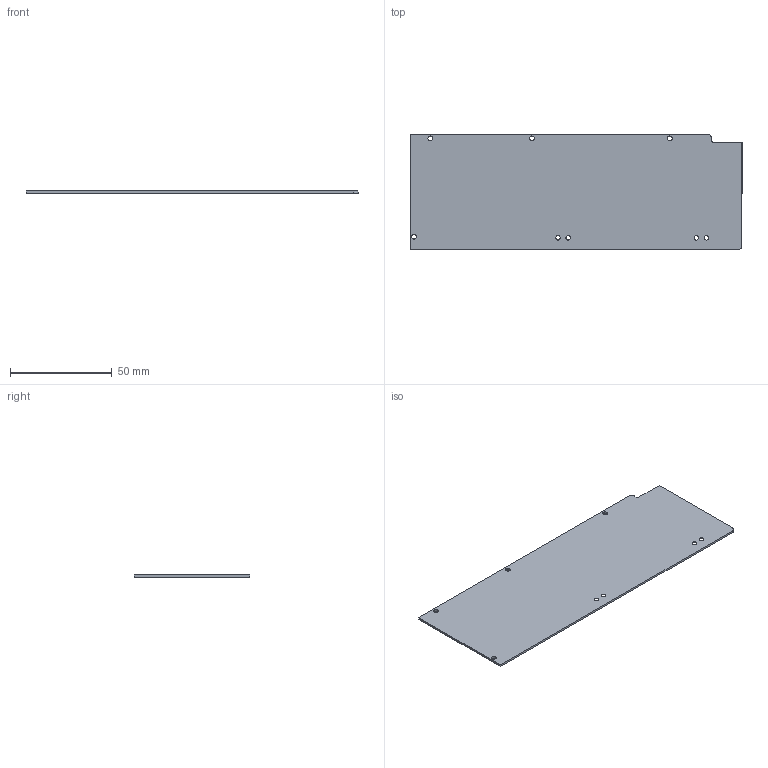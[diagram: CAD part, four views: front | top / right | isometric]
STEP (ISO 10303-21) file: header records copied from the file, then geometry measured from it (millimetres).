
FILE_DESCRIPTION (( 'STEP AP214' ), '1' );
FILE_NAME ('电池壳遮挡板1.STEP', '2026-09-29T01:11:02', ( '微软用户' ), ( '微软中国' ), 'SwSTEP 2.0', 'SolidWorks 2016', '' );
FILE_SCHEMA (( 'AUTOMOTIVE_DESIGN' ));
Length unit declared in the file: millimetre
Products named in the file (1): 萇喀褲殑結啣1
Bounding box: 163.3 x 56.9 x 1 mm (x, y, z)
Volume: 9182.7 mm3; surface area: 18879.6 mm2
Topology: 1 solids, 1 shells, 35 faces, 91 edges, 58 vertices
Faces by surface type: cylinder 19, cone 8, plane 8
Entity records: 1153 total; most frequent: DIRECTION 209, CARTESIAN_POINT 185, ORIENTED_EDGE 182, EDGE_CURVE 91, AXIS2_PLACEMENT_3D 82, VERTEX_POINT 58, EDGE_LOOP 51, CIRCLE 46
